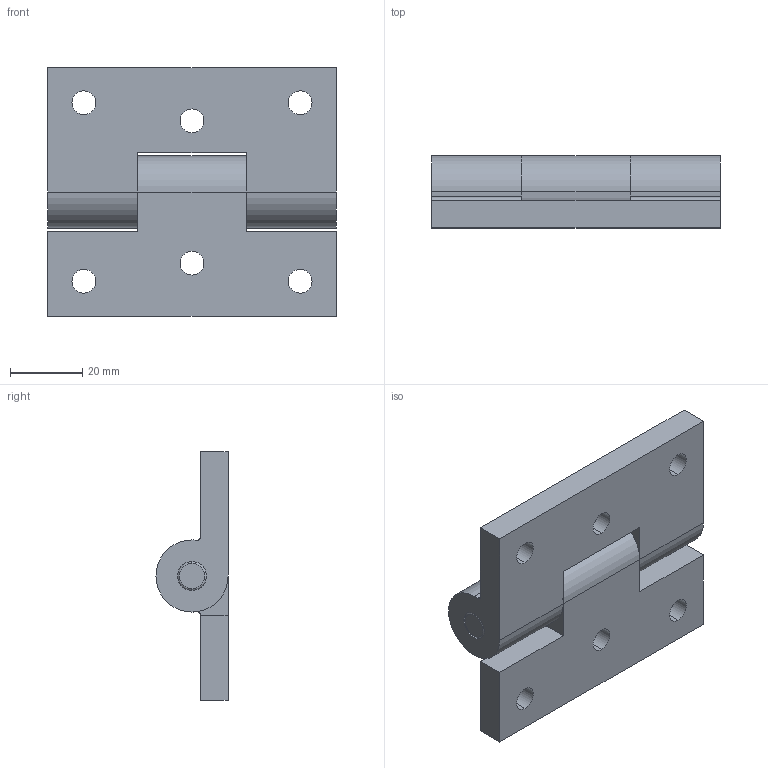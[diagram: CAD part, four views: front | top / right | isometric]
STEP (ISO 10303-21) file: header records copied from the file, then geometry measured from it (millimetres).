
FILE_DESCRIPTION (( 'STEP AP203' ), '1' );
FILE_NAME ('B04-23301.STEP', '2025-08-01T08:21:24', ( '' ), ( '' ), 'SwSTEP 2.0', 'SolidWorks 2021', '' );
FILE_SCHEMA (( 'CONFIG_CONTROL_DESIGN' ));
Length unit declared in the file: millimetre
Products named in the file (4): B04-23301; B04-23301-1; B04-23301-軸; B04-23301-2
Assembly tree (3 placements, depth 2):
  B04-23301
    B04-23301-1
    B04-23301-2
    B04-23301-軸
Bounding box: 80 x 20 x 69 mm (x, y, z)
Volume: 53802.2 mm3; surface area: 21221.9 mm2
Topology: 3 solids, 3 shells, 70 faces, 172 edges, 108 vertices
Faces by surface type: cylinder 35, plane 19, cone 12, torus 4
Entity records: 2536 total; most frequent: DIRECTION 414, CARTESIAN_POINT 356, ORIENTED_EDGE 344, EDGE_CURVE 172, AXIS2_PLACEMENT_3D 166, VERTEX_POINT 108, CIRCLE 90, EDGE_LOOP 88
